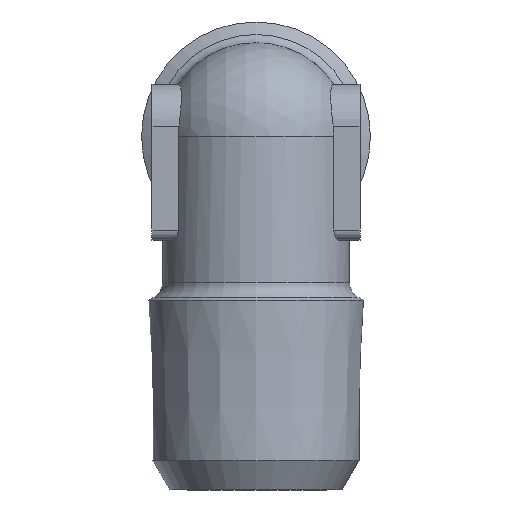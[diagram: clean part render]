
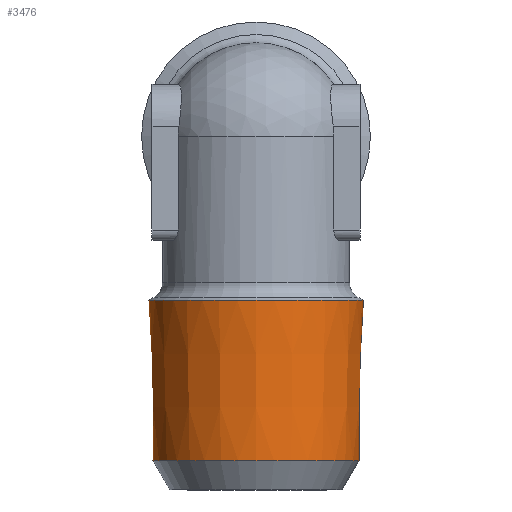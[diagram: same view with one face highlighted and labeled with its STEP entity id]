
A CAD part, left-side view. The second image highlights one B-rep face of the part: STEP entity #3476.
In plain terms, the highlighted conical face has half-angle 1.534 degrees and reference radius 5.166 mm.
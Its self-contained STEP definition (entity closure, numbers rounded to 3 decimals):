
#1417=CONICAL_SURFACE('',#3380,5.166,1.534);
#1687=ORIENTED_EDGE('',*,*,#1960,.F.);
#1688=ORIENTED_EDGE('',*,*,#1975,.T.);
#1747=CIRCLE('',#3365,5.166);
#1752=CIRCLE('',#3381,4.96);
#1843=VERTEX_POINT('',#3212);
#1850=VERTEX_POINT('',#3245);
#1960=EDGE_CURVE('',#1843,#1843,#1747,.T.);
#1975=EDGE_CURVE('',#1850,#1850,#1752,.T.);
#2080=EDGE_LOOP('',(#1687));
#2081=EDGE_LOOP('',(#1688));
#2189=FACE_BOUND('',#2080,.T.);
#2190=FACE_BOUND('',#2081,.T.);
#2457=DIRECTION('',(0.,1.,0.));
#2458=DIRECTION('',(5.166,0.,0.));
#2497=DIRECTION('',(0.,1.,0.));
#2498=DIRECTION('',(1.,0.,0.));
#2499=DIRECTION('',(0.,1.,0.));
#2500=DIRECTION('',(0.,0.,4.96));
#3212=CARTESIAN_POINT('',(55.612,13.298,0.));
#3213=CARTESIAN_POINT('',(50.446,13.298,0.));
#3244=CARTESIAN_POINT('',(50.446,13.298,0.));
#3245=CARTESIAN_POINT('',(50.446,5.591,4.96));
#3246=CARTESIAN_POINT('',(50.446,5.591,0.));
#3365=AXIS2_PLACEMENT_3D('',#3213,#2457,#2458);
#3380=AXIS2_PLACEMENT_3D('',#3244,#2497,#2498);
#3381=AXIS2_PLACEMENT_3D('',#3246,#2499,#2500);
#3476=ADVANCED_FACE('',(#2189,#2190),#1417,.T.);
